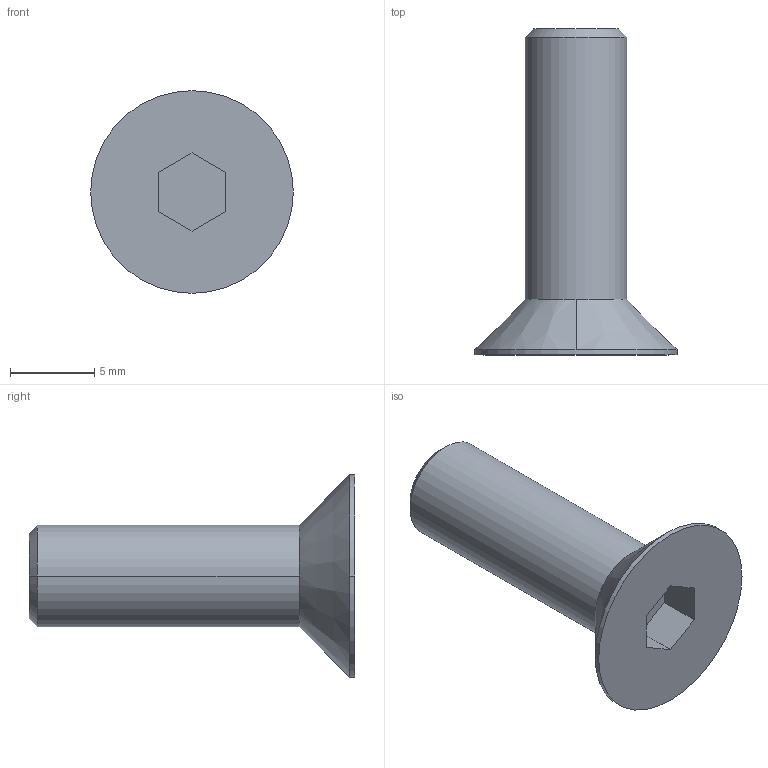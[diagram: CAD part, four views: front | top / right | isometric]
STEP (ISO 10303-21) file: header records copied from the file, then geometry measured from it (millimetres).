
FILE_DESCRIPTION((''),'2;1');
FILE_NAME('VTSEI0616','2002-12-27T',('Lipro doo'),('Lipro d.o.o.'),'PRO/ENGINEER BY PARAMETRIC TECHNOLOGY CORPORATION, 2001150','PRO/ENGINEER BY PARAMETRIC TECHNOLOGY CORPORATION, 2001150','');
FILE_SCHEMA(('CONFIG_CONTROL_DESIGN'));
Length unit declared in the file: millimetre
Products named in the file (1): VTSEI0616
Bounding box: 12 x 19.3 x 12 mm (x, y, z)
Volume: 647.4 mm3; surface area: 854.4 mm2
Topology: 1 solids, 2 shells, 19 faces, 46 edges, 30 vertices
Faces by surface type: plane 9, cylinder 6, cone 4
Entity records: 606 total; most frequent: DIRECTION 104, CARTESIAN_POINT 96, ORIENTED_EDGE 88, EDGE_CURVE 46, AXIS2_PLACEMENT_3D 38, VERTEX_POINT 30, VECTOR 28, LINE 28
